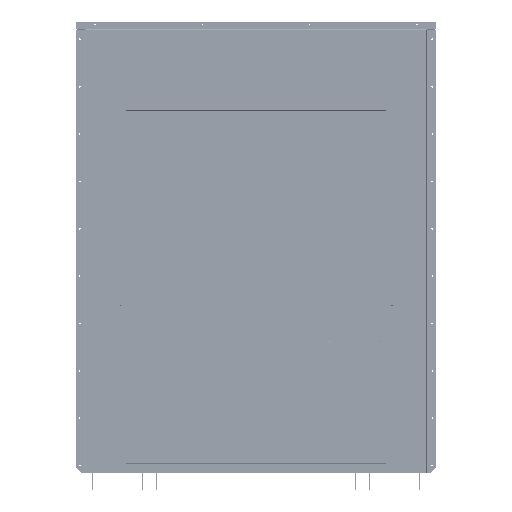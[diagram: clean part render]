
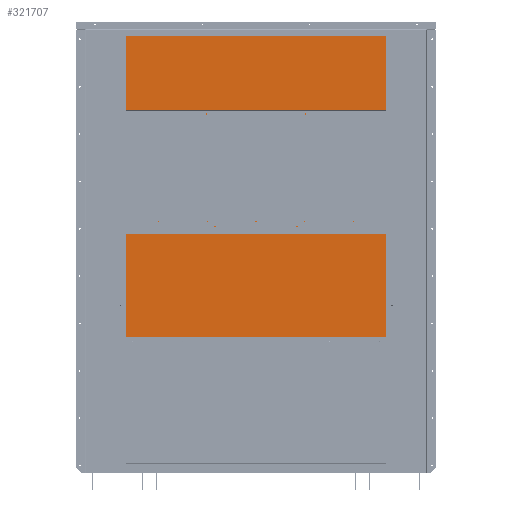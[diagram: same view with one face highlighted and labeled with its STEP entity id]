
A CAD part, front view. The second image highlights one B-rep face of the part: STEP entity #321707.
In plain terms, the highlighted planar face has unit normal (0, -1, 0).
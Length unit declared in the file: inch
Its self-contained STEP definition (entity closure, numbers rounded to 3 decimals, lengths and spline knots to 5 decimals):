
#8368 = LINE ( 'NONE', #239486, #31099 ) ;
#22571 = CARTESIAN_POINT ( 'NONE',  ( 27.55, -25.12, 26.74 ) ) ;
#30944 = CARTESIAN_POINT ( 'NONE',  ( -27.55, -25.12, 90.64 ) ) ;
#31099 = VECTOR ( 'NONE', #569621, 39.37008 ) ;
#44129 = DIRECTION ( 'NONE',  ( 0., 0., 1. ) ) ;
#52159 = VERTEX_POINT ( 'NONE', #22571 ) ;
#105579 = ORIENTED_EDGE ( 'NONE', *, *, #540141, .F. ) ;
#114563 = EDGE_LOOP ( 'NONE', ( #206290, #176709, #105579, #546175 ) ) ;
#118529 = CARTESIAN_POINT ( 'NONE',  ( 27.55, -25.12, 90.64 ) ) ;
#132723 = LINE ( 'NONE', #708947, #445197 ) ;
#154014 = LINE ( 'NONE', #734008, #379862 ) ;
#160762 = VECTOR ( 'NONE', #640027, 39.37008 ) ;
#176709 = ORIENTED_EDGE ( 'NONE', *, *, #189198, .F. ) ;
#189198 = EDGE_CURVE ( 'NONE', #391997, #404716, #241708, .T. ) ;
#206290 = ORIENTED_EDGE ( 'NONE', *, *, #605101, .F. ) ;
#239486 = CARTESIAN_POINT ( 'NONE',  ( 27.55, -25.12, 26.74 ) ) ;
#241708 = LINE ( 'NONE', #472976, #160762 ) ;
#321707 = ADVANCED_FACE ( 'NONE', ( #346167 ), #349905, .T. ) ;
#342432 = CARTESIAN_POINT ( 'NONE',  ( 0., -25.12, 0. ) ) ;
#346167 = FACE_OUTER_BOUND ( 'NONE', #114563, .T. ) ;
#349905 = PLANE ( 'NONE',  #750011 ) ;
#379862 = VECTOR ( 'NONE', #44129, 39.37008 ) ;
#391997 = VERTEX_POINT ( 'NONE', #30944 ) ;
#404716 = VERTEX_POINT ( 'NONE', #118529 ) ;
#445197 = VECTOR ( 'NONE', #545614, 39.37008 ) ;
#472976 = CARTESIAN_POINT ( 'NONE',  ( 27.55, -25.12, 90.64 ) ) ;
#540141 = EDGE_CURVE ( 'NONE', #691656, #391997, #154014, .T. ) ;
#545614 = DIRECTION ( 'NONE',  ( 0., 0., -1. ) ) ;
#546175 = ORIENTED_EDGE ( 'NONE', *, *, #733800, .F. ) ;
#569621 = DIRECTION ( 'NONE',  ( -1., 0., 0. ) ) ;
#581135 = DIRECTION ( 'NONE',  ( 0., 0., -1. ) ) ;
#605101 = EDGE_CURVE ( 'NONE', #404716, #52159, #132723, .T. ) ;
#640027 = DIRECTION ( 'NONE',  ( 1., 0., 0. ) ) ;
#687502 = DIRECTION ( 'NONE',  ( 0., -1., 0. ) ) ;
#691656 = VERTEX_POINT ( 'NONE', #736418 ) ;
#708947 = CARTESIAN_POINT ( 'NONE',  ( 27.55, -25.12, 26.74 ) ) ;
#733800 = EDGE_CURVE ( 'NONE', #52159, #691656, #8368, .T. ) ;
#734008 = CARTESIAN_POINT ( 'NONE',  ( -27.55, -25.12, 26.74 ) ) ;
#736418 = CARTESIAN_POINT ( 'NONE',  ( -27.55, -25.12, 26.74 ) ) ;
#750011 = AXIS2_PLACEMENT_3D ( 'NONE', #342432, #687502, #581135 ) ;
